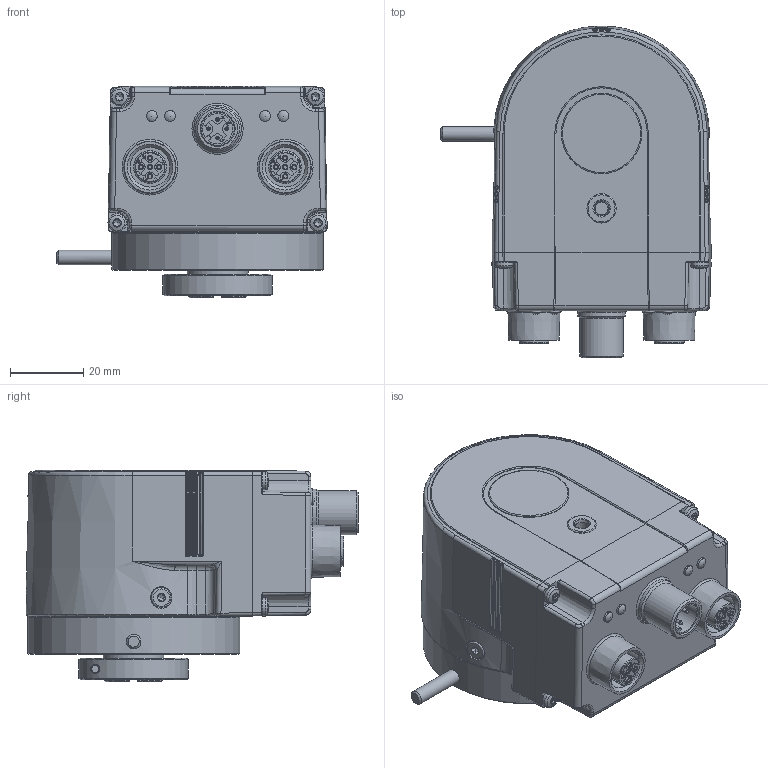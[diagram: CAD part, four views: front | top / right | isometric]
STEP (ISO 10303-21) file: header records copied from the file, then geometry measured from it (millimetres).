
FILE_DESCRIPTION( ( 'Unknown' ), '1' );
FILE_NAME( '//emea.baumernet.org/de01apps/Konstr_Zchng/3D_Zeichnung/Produkte/EAL580_neu_Feldbus/Marketing/Step_fuer_Homepage/EAL580-BPC.4WPT.xxxx0.A.stp', 'Unknown', ( 'Unknown' ), ( 'Unknown' ), 'PSStep 15.0.49', 'Unknown', ' ' );
FILE_SCHEMA( ( 'AUTOMOTIVE_DESIGN { 1 0 10303 214 1 1 1 1 }' ) );
Length unit declared in the file: millimetre
Products named in the file (1): 11159055_PhoenixContact_1411996_0
Bounding box: 74 x 90.86 x 57.9 mm (x, y, z)
Volume: 193313.8 mm3; surface area: 28752.2 mm2
Topology: 1 solids, 1 shells, 1208 faces, 3194 edges, 2016 vertices
Faces by surface type: plane 633, cylinder 289, cone 123, bspline 71, torus 66, sphere 26
Full cylindrical faces by diameter (mm): 1 x4, 1.05 x8, 1.1 x2, 1.7 x2, 2.459 x4, 2.5 x3, 3 x6, 3.2 x1, 4 x1, 5 x4, 5.5 x4, 6 x3, 7.5 x2, 8 x2, 8.2 x2, 8.9 x2, 9 x2, 9.45 x1, 9.6 x1, 10.917 x2, 12 x2, 13 x1, 16.2 x1, 16.7 x1, 16.95 x1, 17 x1, 20.2 x1, 22 x1, 23.2 x1, 26 x1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
Entity records: 53728 total; most frequent: CARTESIAN_POINT 15867, ORIENTED_EDGE 5786, DIRECTION 5699, EDGE_CURVE 2893, AXIS2_PLACEMENT_3D 1985, VERTEX_POINT 1923, LINE 1729, VECTOR 1729
